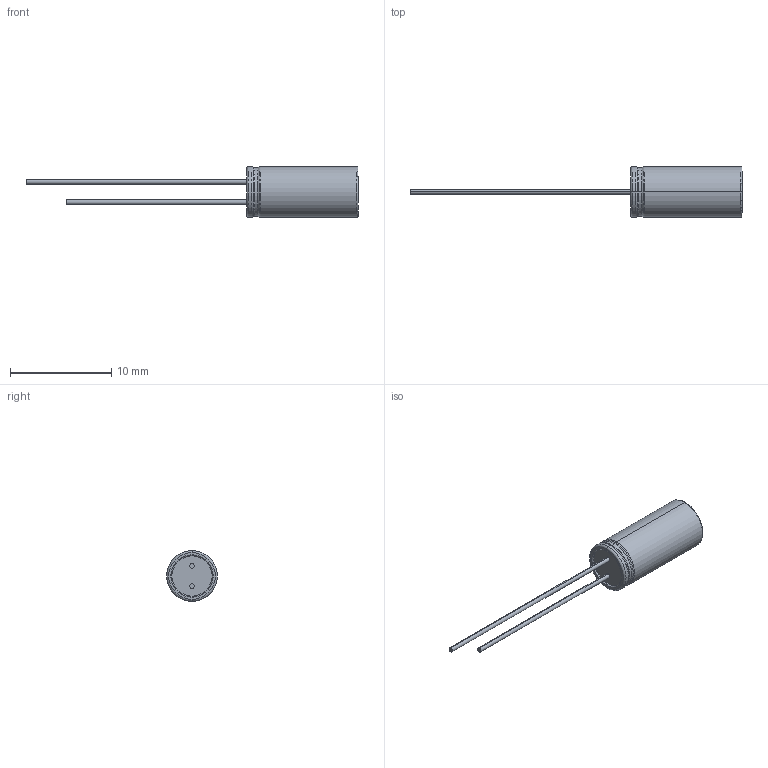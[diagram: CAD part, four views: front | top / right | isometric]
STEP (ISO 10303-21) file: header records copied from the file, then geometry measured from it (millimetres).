
FILE_DESCRIPTION((''),'2;1');
FILE_NAME('POLYMER-RADIAL5X11','2020-06-03T',('xy'),(''),'PRO/ENGINEER BY PARAMETRIC TECHNOLOGY CORPORATION, 2009380','PRO/ENGINEER BY PARAMETRIC TECHNOLOGY CORPORATION, 2009380','');
FILE_SCHEMA(('CONFIG_CONTROL_DESIGN'));
Length unit declared in the file: millimetre
Products named in the file (1): POLYMER-RADIAL5X11
Bounding box: 32.8 x 5 x 5 mm (x, y, z)
Volume: 218.9 mm3; surface area: 269.3 mm2
Topology: 1 solids, 1 shells, 415 faces, 1147 edges, 758 vertices
Faces by surface type: plane 388, cylinder 13, torus 10, cone 4
Entity records: 13006 total; most frequent: CARTESIAN_POINT 2320, ORIENTED_EDGE 2294, DIRECTION 2024, EDGE_CURVE 1147, VECTOR 1100, LINE 1100, VERTEX_POINT 758, AXIS2_PLACEMENT_3D 462
